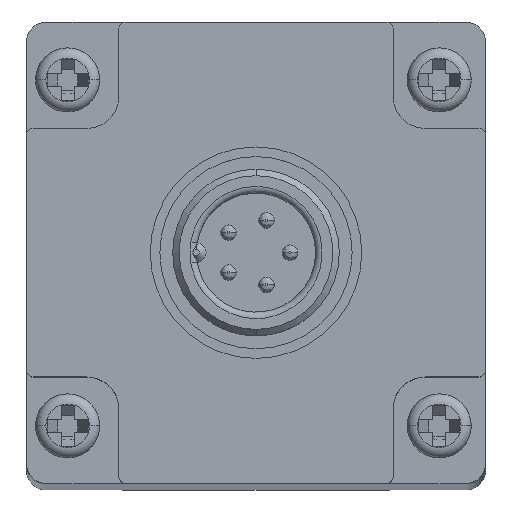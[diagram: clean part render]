
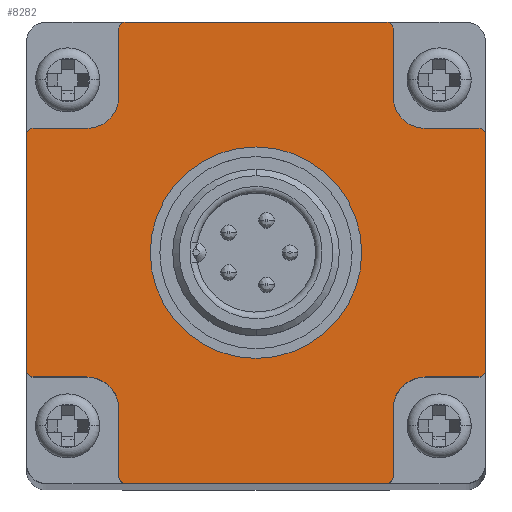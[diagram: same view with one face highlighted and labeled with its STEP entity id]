
A CAD part, top view. The second image highlights one B-rep face of the part: STEP entity #8282.
In plain terms, the highlighted planar face has unit normal (0, 0, 1).
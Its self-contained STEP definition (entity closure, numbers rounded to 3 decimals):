
#7136=CARTESIAN_POINT('',(10.2,17.5,17.));
#7137=DIRECTION('',(0.,0.,1.));
#7138=DIRECTION('',(1.,0.,0.));
#7139=AXIS2_PLACEMENT_3D('',#7136,#7137,#7138);
#7144=DIRECTION('',(0.,-1.,0.));
#7145=VECTOR('',#7144,5.3);
#7146=CARTESIAN_POINT('',(10.7,17.5,17.));
#7147=LINE('',#7146,#7145);
#7151=CARTESIAN_POINT('',(13.2,12.2,17.));
#7152=DIRECTION('',(0.,0.,1.));
#7153=DIRECTION('',(-1.,0.,0.));
#7154=AXIS2_PLACEMENT_3D('',#7151,#7152,#7153);
#7159=DIRECTION('',(-1.,0.,0.));
#7160=VECTOR('',#7159,4.2);
#7161=CARTESIAN_POINT('',(17.4,9.7,17.));
#7162=LINE('',#7161,#7160);
#7166=CARTESIAN_POINT('',(17.4,9.2,17.));
#7167=DIRECTION('',(0.,0.,1.));
#7168=DIRECTION('',(1.,0.,0.));
#7169=AXIS2_PLACEMENT_3D('',#7166,#7167,#7168);
#7174=CARTESIAN_POINT('',(17.4,-9.2,17.));
#7175=DIRECTION('',(0.,0.,1.));
#7176=DIRECTION('',(0.,-1.,0.));
#7177=AXIS2_PLACEMENT_3D('',#7174,#7175,#7176);
#7182=DIRECTION('',(-1.,0.,0.));
#7183=VECTOR('',#7182,4.2);
#7184=CARTESIAN_POINT('',(17.4,-9.7,17.));
#7185=LINE('',#7184,#7183);
#7189=CARTESIAN_POINT('',(13.2,-12.2,17.));
#7190=DIRECTION('',(0.,0.,1.));
#7191=DIRECTION('',(0.,1.,0.));
#7192=AXIS2_PLACEMENT_3D('',#7189,#7190,#7191);
#7197=DIRECTION('',(0.,1.,0.));
#7198=VECTOR('',#7197,5.3);
#7199=CARTESIAN_POINT('',(10.7,-17.5,17.));
#7200=LINE('',#7199,#7198);
#7204=CARTESIAN_POINT('',(10.2,-17.5,17.));
#7205=DIRECTION('',(0.,0.,1.));
#7206=DIRECTION('',(0.,-1.,0.));
#7207=AXIS2_PLACEMENT_3D('',#7204,#7205,#7206);
#7212=DIRECTION('',(1.,0.,0.));
#7213=VECTOR('',#7212,20.4);
#7214=CARTESIAN_POINT('',(-10.2,-18.,17.));
#7215=LINE('',#7214,#7213);
#7219=CARTESIAN_POINT('',(-10.2,-17.5,17.));
#7220=DIRECTION('',(0.,0.,1.));
#7221=DIRECTION('',(-1.,0.,0.));
#7222=AXIS2_PLACEMENT_3D('',#7219,#7220,#7221);
#7227=DIRECTION('',(0.,1.,0.));
#7228=VECTOR('',#7227,5.3);
#7229=CARTESIAN_POINT('',(-10.7,-17.5,17.));
#7230=LINE('',#7229,#7228);
#7234=CARTESIAN_POINT('',(-13.2,-12.2,17.));
#7235=DIRECTION('',(0.,0.,1.));
#7236=DIRECTION('',(1.,0.,0.));
#7237=AXIS2_PLACEMENT_3D('',#7234,#7235,#7236);
#7242=DIRECTION('',(1.,0.,0.));
#7243=VECTOR('',#7242,4.2);
#7244=CARTESIAN_POINT('',(-17.4,-9.7,17.));
#7245=LINE('',#7244,#7243);
#7249=CARTESIAN_POINT('',(-17.4,-9.2,17.));
#7250=DIRECTION('',(0.,0.,1.));
#7251=DIRECTION('',(-1.,0.,0.));
#7252=AXIS2_PLACEMENT_3D('',#7249,#7250,#7251);
#7257=DIRECTION('',(0.,-1.,0.));
#7258=VECTOR('',#7257,18.4);
#7259=CARTESIAN_POINT('',(-17.9,9.2,17.));
#7260=LINE('',#7259,#7258);
#7264=CARTESIAN_POINT('',(-17.4,9.2,17.));
#7265=DIRECTION('',(0.,0.,1.));
#7266=DIRECTION('',(0.,1.,0.));
#7267=AXIS2_PLACEMENT_3D('',#7264,#7265,#7266);
#7272=DIRECTION('',(1.,0.,0.));
#7273=VECTOR('',#7272,4.2);
#7274=CARTESIAN_POINT('',(-17.4,9.7,17.));
#7275=LINE('',#7274,#7273);
#7279=CARTESIAN_POINT('',(-13.2,12.2,17.));
#7280=DIRECTION('',(0.,0.,1.));
#7281=DIRECTION('',(0.,-1.,0.));
#7282=AXIS2_PLACEMENT_3D('',#7279,#7280,#7281);
#7287=DIRECTION('',(0.,-1.,0.));
#7288=VECTOR('',#7287,5.3);
#7289=CARTESIAN_POINT('',(-10.7,17.5,17.));
#7290=LINE('',#7289,#7288);
#7294=CARTESIAN_POINT('',(-10.2,17.5,17.));
#7295=DIRECTION('',(0.,0.,1.));
#7296=DIRECTION('',(0.,1.,0.));
#7297=AXIS2_PLACEMENT_3D('',#7294,#7295,#7296);
#7302=DIRECTION('',(-1.,0.,0.));
#7303=VECTOR('',#7302,20.4);
#7304=CARTESIAN_POINT('',(10.2,18.,17.));
#7305=LINE('',#7304,#7303);
#7309=CARTESIAN_POINT('',(0.,0.,17.));
#7310=DIRECTION('',(0.,0.,1.));
#7311=DIRECTION('',(1.,0.,0.));
#7312=AXIS2_PLACEMENT_3D('',#7309,#7310,#7311);
#7317=CARTESIAN_POINT('',(0.,0.,17.));
#7318=DIRECTION('',(0.,0.,1.));
#7319=DIRECTION('',(-1.,0.,0.));
#7320=AXIS2_PLACEMENT_3D('',#7317,#7318,#7319);
#7632=DIRECTION('',(0.,1.,0.));
#7633=VECTOR('',#7632,18.4);
#7634=CARTESIAN_POINT('',(17.9,-9.2,17.));
#7635=LINE('',#7634,#7633);
#7997=CARTESIAN_POINT('',(10.7,12.2,17.));
#7998=CARTESIAN_POINT('',(13.2,9.7,17.));
#7999=VERTEX_POINT('',#7997);
#8000=VERTEX_POINT('',#7998);
#8001=CARTESIAN_POINT('',(-13.2,9.7,17.));
#8002=CARTESIAN_POINT('',(-10.7,12.2,17.));
#8003=VERTEX_POINT('',#8001);
#8004=VERTEX_POINT('',#8002);
#8005=CARTESIAN_POINT('',(-10.7,-12.2,17.));
#8006=CARTESIAN_POINT('',(-13.2,-9.7,17.));
#8007=VERTEX_POINT('',#8005);
#8008=VERTEX_POINT('',#8006);
#8009=CARTESIAN_POINT('',(13.2,-9.7,17.));
#8010=CARTESIAN_POINT('',(10.7,-12.2,17.));
#8011=VERTEX_POINT('',#8009);
#8012=VERTEX_POINT('',#8010);
#8045=CARTESIAN_POINT('',(10.7,17.5,17.));
#8047=VERTEX_POINT('',#8045);
#8049=CARTESIAN_POINT('',(10.2,18.,17.));
#8050=VERTEX_POINT('',#8049);
#8053=CARTESIAN_POINT('',(17.9,9.2,17.));
#8054=CARTESIAN_POINT('',(17.4,9.7,17.));
#8055=VERTEX_POINT('',#8053);
#8056=VERTEX_POINT('',#8054);
#8061=CARTESIAN_POINT('',(17.4,-9.7,17.));
#8063=VERTEX_POINT('',#8061);
#8065=CARTESIAN_POINT('',(17.9,-9.2,17.));
#8066=VERTEX_POINT('',#8065);
#8069=CARTESIAN_POINT('',(10.2,-18.,17.));
#8070=CARTESIAN_POINT('',(10.7,-17.5,17.));
#8071=VERTEX_POINT('',#8069);
#8072=VERTEX_POINT('',#8070);
#8077=CARTESIAN_POINT('',(-17.4,9.7,17.));
#8079=VERTEX_POINT('',#8077);
#8081=CARTESIAN_POINT('',(-17.9,9.2,17.));
#8082=VERTEX_POINT('',#8081);
#8085=CARTESIAN_POINT('',(-10.2,18.,17.));
#8086=CARTESIAN_POINT('',(-10.7,17.5,17.));
#8087=VERTEX_POINT('',#8085);
#8088=VERTEX_POINT('',#8086);
#8093=CARTESIAN_POINT('',(-17.9,-9.2,17.));
#8094=CARTESIAN_POINT('',(-17.4,-9.7,17.));
#8095=VERTEX_POINT('',#8093);
#8096=VERTEX_POINT('',#8094);
#8101=CARTESIAN_POINT('',(-10.7,-17.5,17.));
#8103=VERTEX_POINT('',#8101);
#8105=CARTESIAN_POINT('',(-10.2,-18.,17.));
#8106=VERTEX_POINT('',#8105);
#8113=CARTESIAN_POINT('',(8.25,0.,17.));
#8114=CARTESIAN_POINT('',(-8.25,0.,17.));
#8115=VERTEX_POINT('',#8113);
#8116=VERTEX_POINT('',#8114);
#8222=CARTESIAN_POINT('',(0.,0.,17.));
#8223=DIRECTION('',(0.,0.,1.));
#8224=DIRECTION('',(0.,1.,0.));
#8225=AXIS2_PLACEMENT_3D('',#8222,#8223,#8224);
#8226=PLANE('',#8225);
#8228=ORIENTED_EDGE('',*,*,#8227,.F.);
#8230=ORIENTED_EDGE('',*,*,#8229,.T.);
#8232=ORIENTED_EDGE('',*,*,#8231,.T.);
#8234=ORIENTED_EDGE('',*,*,#8233,.F.);
#8236=ORIENTED_EDGE('',*,*,#8235,.F.);
#8238=ORIENTED_EDGE('',*,*,#8237,.F.);
#8240=ORIENTED_EDGE('',*,*,#8239,.F.);
#8242=ORIENTED_EDGE('',*,*,#8241,.T.);
#8244=ORIENTED_EDGE('',*,*,#8243,.T.);
#8246=ORIENTED_EDGE('',*,*,#8245,.F.);
#8248=ORIENTED_EDGE('',*,*,#8247,.F.);
#8250=ORIENTED_EDGE('',*,*,#8249,.F.);
#8252=ORIENTED_EDGE('',*,*,#8251,.F.);
#8254=ORIENTED_EDGE('',*,*,#8253,.T.);
#8256=ORIENTED_EDGE('',*,*,#8255,.T.);
#8258=ORIENTED_EDGE('',*,*,#8257,.F.);
#8260=ORIENTED_EDGE('',*,*,#8259,.F.);
#8262=ORIENTED_EDGE('',*,*,#8261,.F.);
#8264=ORIENTED_EDGE('',*,*,#8263,.F.);
#8266=ORIENTED_EDGE('',*,*,#8265,.T.);
#8268=ORIENTED_EDGE('',*,*,#8267,.T.);
#8270=ORIENTED_EDGE('',*,*,#8269,.F.);
#8272=ORIENTED_EDGE('',*,*,#8271,.F.);
#8274=ORIENTED_EDGE('',*,*,#8273,.F.);
#8275=EDGE_LOOP('',(#8228,#8230,#8232,#8234,#8236,#8238,#8240,#8242,#8244,#8246,
#8248,#8250,#8252,#8254,#8256,#8258,#8260,#8262,#8264,#8266,#8268,#8270,#8272,
#8274));
#8276=FACE_OUTER_BOUND('',#8275,.F.);
#8277=ORIENTED_EDGE('',*,*,#8212,.T.);
#8279=ORIENTED_EDGE('',*,*,#8278,.T.);
#8280=EDGE_LOOP('',(#8277,#8279));
#8281=FACE_BOUND('',#8280,.F.);
#7140=CIRCLE('',#7139,0.5);
#7155=CIRCLE('',#7154,2.5);
#7170=CIRCLE('',#7169,0.5);
#7178=CIRCLE('',#7177,0.5);
#7193=CIRCLE('',#7192,2.5);
#7208=CIRCLE('',#7207,0.5);
#7223=CIRCLE('',#7222,0.5);
#7238=CIRCLE('',#7237,2.5);
#7253=CIRCLE('',#7252,0.5);
#7268=CIRCLE('',#7267,0.5);
#7283=CIRCLE('',#7282,2.5);
#7298=CIRCLE('',#7297,0.5);
#7313=CIRCLE('',#7312,8.25);
#7321=CIRCLE('',#7320,8.25);
#8212=EDGE_CURVE('',#8115,#8116,#7313,.T.);
#8227=EDGE_CURVE('',#8047,#8050,#7140,.T.);
#8229=EDGE_CURVE('',#8047,#7999,#7147,.T.);
#8231=EDGE_CURVE('',#7999,#8000,#7155,.T.);
#8233=EDGE_CURVE('',#8056,#8000,#7162,.T.);
#8235=EDGE_CURVE('',#8055,#8056,#7170,.T.);
#8237=EDGE_CURVE('',#8066,#8055,#7635,.T.);
#8239=EDGE_CURVE('',#8063,#8066,#7178,.T.);
#8241=EDGE_CURVE('',#8063,#8011,#7185,.T.);
#8243=EDGE_CURVE('',#8011,#8012,#7193,.T.);
#8245=EDGE_CURVE('',#8072,#8012,#7200,.T.);
#8247=EDGE_CURVE('',#8071,#8072,#7208,.T.);
#8249=EDGE_CURVE('',#8106,#8071,#7215,.T.);
#8251=EDGE_CURVE('',#8103,#8106,#7223,.T.);
#8253=EDGE_CURVE('',#8103,#8007,#7230,.T.);
#8255=EDGE_CURVE('',#8007,#8008,#7238,.T.);
#8257=EDGE_CURVE('',#8096,#8008,#7245,.T.);
#8259=EDGE_CURVE('',#8095,#8096,#7253,.T.);
#8261=EDGE_CURVE('',#8082,#8095,#7260,.T.);
#8263=EDGE_CURVE('',#8079,#8082,#7268,.T.);
#8265=EDGE_CURVE('',#8079,#8003,#7275,.T.);
#8267=EDGE_CURVE('',#8003,#8004,#7283,.T.);
#8269=EDGE_CURVE('',#8088,#8004,#7290,.T.);
#8271=EDGE_CURVE('',#8087,#8088,#7298,.T.);
#8273=EDGE_CURVE('',#8050,#8087,#7305,.T.);
#8278=EDGE_CURVE('',#8116,#8115,#7321,.T.);
#8282=ADVANCED_FACE('',(#8276,#8281),#8226,.T.);
